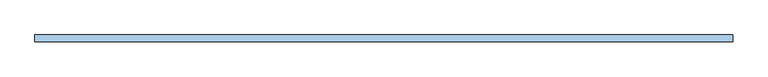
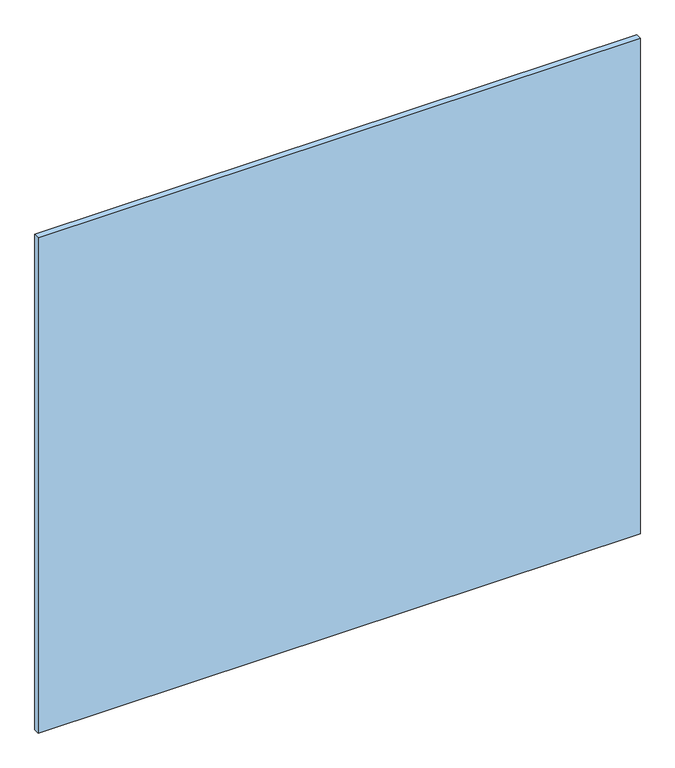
"""IFC4 building model written with IfcOpenShell, lengths in millimetres: window geometry, espejo biselado sin marco : ESP-3 espejo biselado 130 x 102."""

from ifc_helpers import new_model, si_unit, origin, origin_with_axes, place, context, project, spatial, polyline, outline, extrude, source, transform, mapped, element, save


def window_d78bf85d(model_context):
    return source(origin(), model_context, "Body", "SweptSolid", [
        extrude(outline(polyline([(-575.0, 84.0), (-575.0, 95.0), (575.0, 95.0), (575.0, 84.0), (-575.0, 84.0)])), origin_with_axes(), (0.0, 0.0, 1.0), 1000.0),
    ])


if __name__ == "__main__":
    model = new_model("IFC4")
    model_context = context("Model", 3, world=origin())
    ifc_project = project(units=[si_unit("LENGTHUNIT", "METRE", prefix="MILLI")], contexts=[model_context])
    site = spatial("IfcSite", under=ifc_project)
    building = spatial("IfcBuilding", under=site)
    placement = place(None, origin())
    window_shape = window_d78bf85d(model_context)
    element("IfcWindow", 1, ObjectType="espejo biselado sin marco : ESP-3 espejo biselado 130 x 102", at=placement, inside=building, context=model_context, shape_type="MappedRepresentation", body=[
        mapped(window_shape, transform((0.0, 0.0, 0.0), x_axis=(1.0, 0.0, 0.0), y_axis=(0.0, 1.0, 0.0), z_axis=(0.0, 0.0, 1.0))),
    ])
    save(model, "model.ifc")
